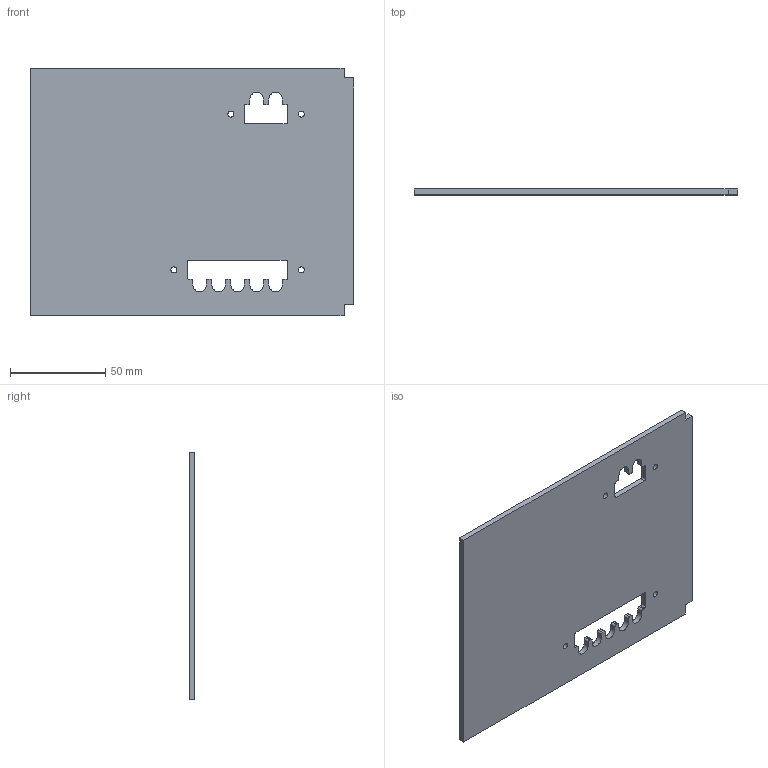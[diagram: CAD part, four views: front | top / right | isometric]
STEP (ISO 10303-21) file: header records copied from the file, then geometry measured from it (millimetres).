
FILE_DESCRIPTION(/* description */ (''),/* implementation_level */ '2;1');
FILE_NAME(/* name */ '1.frame-bottom#1.6#la-pan-5',/* time_stamp */ '2014-12-01T20:11:28+01:00',/* author */ (''),/* organization */ (''),/* preprocessor_version */ 'ST-DEVELOPER v14',/* originating_system */ '',/* authorisation */ '');
FILE_SCHEMA (('AUTOMOTIVE_DESIGN'));
Length unit declared in the file: millimetre
Products named in the file (1): Document
Bounding box: 170 x 3 x 130 mm (x, y, z)
Volume: 62891.5 mm3; surface area: 44606.4 mm2
Topology: 1 solids, 1 shells, 76 faces, 222 edges, 148 vertices
Faces by surface type: bspline 40, plane 36
Entity records: 4946 total; most frequent: CARTESIAN_POINT 2162, B_SPLINE_CURVE_WITH_KNOTS 466, ORIENTED_EDGE 444, PCURVE 444, DEFINITIONAL_REPRESENTATION 444, SURFACE_CURVE 222, EDGE_CURVE 222, VERTEX_POINT 148
